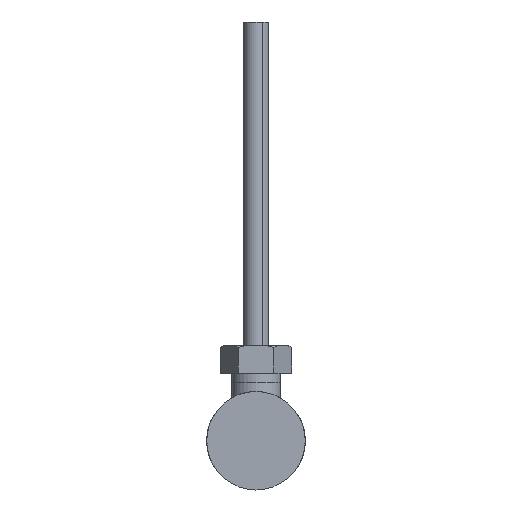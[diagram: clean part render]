
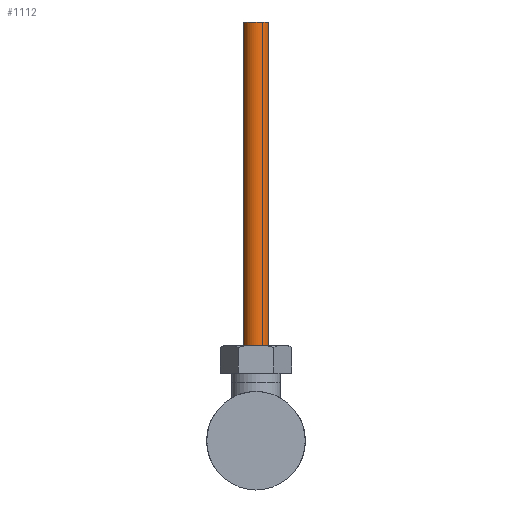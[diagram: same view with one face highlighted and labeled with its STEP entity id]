
A CAD part, front view. The second image highlights one B-rep face of the part: STEP entity #1112.
In plain terms, the highlighted cylindrical face has radius 2 mm (diameter 4 mm), a full revolution.
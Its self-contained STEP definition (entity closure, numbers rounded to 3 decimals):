
#177=CYLINDRICAL_SURFACE('',#1812,2.);
#392=ORIENTED_EDGE('',*,*,#506,.T.);
#393=ORIENTED_EDGE('',*,*,#507,.F.);
#506=EDGE_CURVE('',#605,#605,#678,.T.);
#507=EDGE_CURVE('',#606,#606,#679,.T.);
#605=VERTEX_POINT('',#2598);
#606=VERTEX_POINT('',#2600);
#678=CIRCLE('',#1813,2.);
#679=CIRCLE('',#1814,2.);
#833=EDGE_LOOP('',(#392));
#834=EDGE_LOOP('',(#393));
#994=FACE_BOUND('',#833,.T.);
#995=FACE_BOUND('',#834,.T.);
#1112=ADVANCED_FACE('',(#994,#995),#177,.T.);
#1812=AXIS2_PLACEMENT_3D('',#2596,#2162,#2163);
#1813=AXIS2_PLACEMENT_3D('',#2597,#2164,#2165);
#1814=AXIS2_PLACEMENT_3D('',#2599,#2166,#2167);
#2162=DIRECTION('',(0.,0.,-1.));
#2163=DIRECTION('',(-1.,0.,0.));
#2164=DIRECTION('',(0.,0.,-1.));
#2165=DIRECTION('',(1.,0.,0.));
#2166=DIRECTION('',(0.,0.,-1.));
#2167=DIRECTION('',(1.,0.,0.));
#2596=CARTESIAN_POINT('',(0.,0.,70.));
#2597=CARTESIAN_POINT('',(0.,0.,70.));
#2598=CARTESIAN_POINT('',(2.,0.,70.));
#2599=CARTESIAN_POINT('',(0.,0.,0.));
#2600=CARTESIAN_POINT('',(2.,0.,0.));
